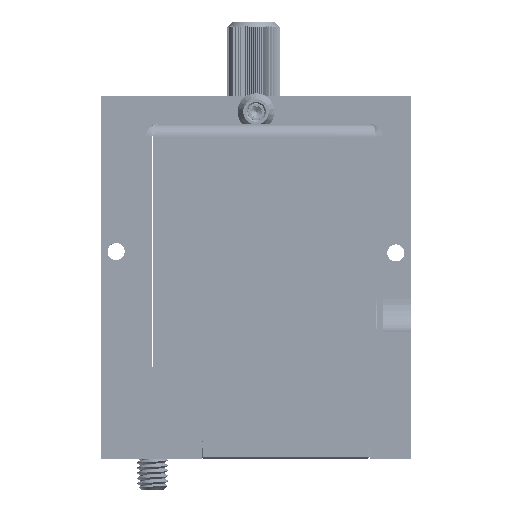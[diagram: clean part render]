
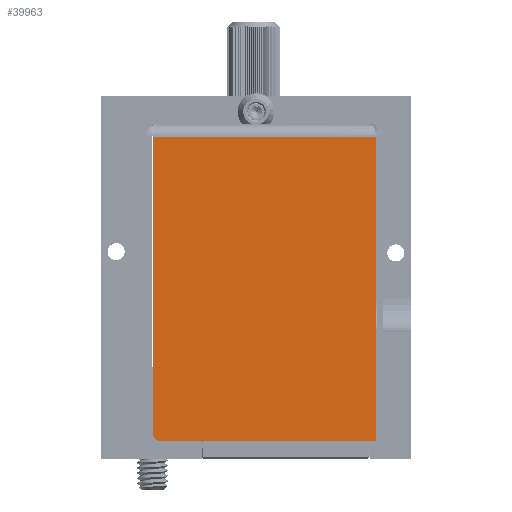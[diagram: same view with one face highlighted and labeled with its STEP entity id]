
A CAD part, front view. The second image highlights one B-rep face of the part: STEP entity #39963.
In plain terms, the highlighted planar face has unit normal (0, -1, 0).
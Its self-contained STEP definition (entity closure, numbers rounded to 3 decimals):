
#5726 = VERTEX_POINT ( 'NONE', #108379 ) ;
#12124 = LINE ( 'NONE', #60481, #108273 ) ;
#12411 = DIRECTION ( 'NONE',  ( 0., 0., -1. ) ) ;
#19106 = CARTESIAN_POINT ( 'NONE',  ( 94.293, -101.37, 5.446 ) ) ;
#21229 = CARTESIAN_POINT ( 'NONE',  ( 51.371, -101.37, 6.716 ) ) ;
#26045 = DIRECTION ( 'NONE',  ( 0., 1., 0. ) ) ;
#28707 = VECTOR ( 'NONE', #153133, 1000. ) ;
#31526 = ORIENTED_EDGE ( 'NONE', *, *, #60955, .T. ) ;
#36791 = ORIENTED_EDGE ( 'NONE', *, *, #105125, .T. ) ;
#37648 = DIRECTION ( 'NONE',  ( 0., 0., -1. ) ) ;
#37939 = FACE_OUTER_BOUND ( 'NONE', #109045, .T. ) ;
#39963 = ADVANCED_FACE ( 'NONE', ( #37939 ), #86237, .F. ) ;
#40037 = VERTEX_POINT ( 'NONE', #139838 ) ;
#47331 = EDGE_CURVE ( 'NONE', #149198, #114962, #50460, .T. ) ;
#50460 = CIRCLE ( 'NONE', #138960, 1.27 ) ;
#53563 = AXIS2_PLACEMENT_3D ( 'NONE', #134573, #26045, #74401 ) ;
#55480 = LINE ( 'NONE', #103805, #75047 ) ;
#56464 = LINE ( 'NONE', #104785, #28707 ) ;
#60481 = CARTESIAN_POINT ( 'NONE',  ( 94.293, -101.37, 64.042 ) ) ;
#60955 = EDGE_CURVE ( 'NONE', #40037, #149198, #72645, .T. ) ;
#63912 = CARTESIAN_POINT ( 'NONE',  ( 52.641, -101.37, 5.446 ) ) ;
#66990 = VECTOR ( 'NONE', #12411, 1000. ) ;
#72645 = LINE ( 'NONE', #120946, #66990 ) ;
#74401 = DIRECTION ( 'NONE',  ( 0., 0., -1. ) ) ;
#75047 = VECTOR ( 'NONE', #152159, 1000. ) ;
#86237 = PLANE ( 'NONE',  #53563 ) ;
#97870 = CARTESIAN_POINT ( 'NONE',  ( 52.641, -101.37, 6.716 ) ) ;
#103805 = CARTESIAN_POINT ( 'NONE',  ( 93.203, -101.37, 64.042 ) ) ;
#104785 = CARTESIAN_POINT ( 'NONE',  ( 51.371, -101.37, 5.446 ) ) ;
#105125 = EDGE_CURVE ( 'NONE', #114962, #126504, #56464, .T. ) ;
#108273 = VECTOR ( 'NONE', #108807, 1000. ) ;
#108379 = CARTESIAN_POINT ( 'NONE',  ( 94.293, -101.37, 64.042 ) ) ;
#108807 = DIRECTION ( 'NONE',  ( 0., 0., -1. ) ) ;
#109045 = EDGE_LOOP ( 'NONE', ( #31526, #114919, #36791, #117590, #141566 ) ) ;
#114919 = ORIENTED_EDGE ( 'NONE', *, *, #47331, .T. ) ;
#114962 = VERTEX_POINT ( 'NONE', #63912 ) ;
#117590 = ORIENTED_EDGE ( 'NONE', *, *, #126959, .F. ) ;
#120946 = CARTESIAN_POINT ( 'NONE',  ( 51.371, -101.37, 64.042 ) ) ;
#124739 = EDGE_CURVE ( 'NONE', #40037, #5726, #55480, .T. ) ;
#126504 = VERTEX_POINT ( 'NONE', #19106 ) ;
#126959 = EDGE_CURVE ( 'NONE', #5726, #126504, #12124, .T. ) ;
#134573 = CARTESIAN_POINT ( 'NONE',  ( 49.921, -101.37, 66.582 ) ) ;
#138960 = AXIS2_PLACEMENT_3D ( 'NONE', #97870, #146203, #37648 ) ;
#139838 = CARTESIAN_POINT ( 'NONE',  ( 51.371, -101.37, 64.042 ) ) ;
#141566 = ORIENTED_EDGE ( 'NONE', *, *, #124739, .F. ) ;
#146203 = DIRECTION ( 'NONE',  ( 0., -1., 0. ) ) ;
#149198 = VERTEX_POINT ( 'NONE', #21229 ) ;
#152159 = DIRECTION ( 'NONE',  ( 1., 0., 0. ) ) ;
#153133 = DIRECTION ( 'NONE',  ( 1., 0., 0. ) ) ;
